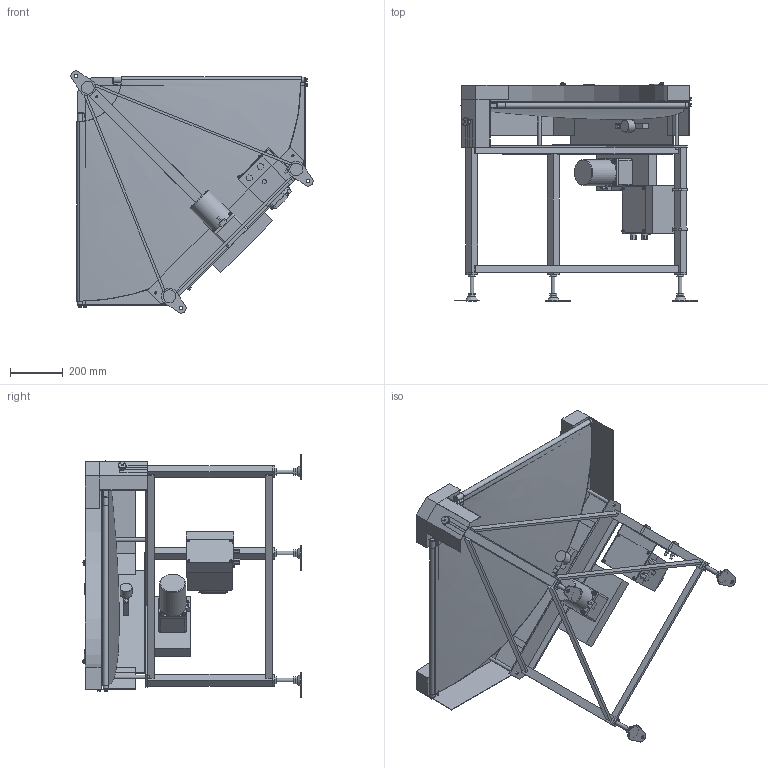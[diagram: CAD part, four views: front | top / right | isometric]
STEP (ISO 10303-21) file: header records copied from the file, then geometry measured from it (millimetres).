
FILE_DESCRIPTION (( 'STEP AP214' ), '1' );
FILE_NAME ('FFBC3-UD-309-600-90°-L-IV-60.STEP', '2023-04-18T07:36:16', ( '' ), ( '' ), 'SwSTEP 2.0', 'SolidWorks 2017', '' );
FILE_SCHEMA (( 'AUTOMOTIVE_DESIGN' ));
Length unit declared in the file: millimetre
Products named in the file (1): FFBC3-UD-309-600-90°-L-IV-60
Bounding box: 917.16 x 827.92 x 917.16 mm (x, y, z)
Volume: 26426530.6 mm3; surface area: 5934431.6 mm2
Topology: 57 solids, 58 shells, 1017 faces, 2311 edges, 1492 vertices
Faces by surface type: plane 737, cylinder 203, bspline 40, cone 23, torus 12, sphere 2
Full cylindrical faces by diameter (mm): 4 x4, 4.2 x2, 4.5 x1, 5 x4, 5.9 x4, 7 x1, 7.6 x4, 7.8 x1, 8 x18, 8.4 x4, 8.5 x8, 9 x6, 12.5 x4, 13 x11, 13.8 x3, 15 x4, 16 x9, 17 x9, 18 x4, 20 x3, 25 x1, 30 x2, 42 x1, 45 x1, 99 x1
Entity records: 45613 total; most frequent: CARTESIAN_POINT 11725, DIRECTION 4420, ORIENTED_EDGE 4244, EDGE_CURVE 2122, VECTOR 1514, LINE 1514, VERTEX_POINT 1454, AXIS2_PLACEMENT_3D 1453
